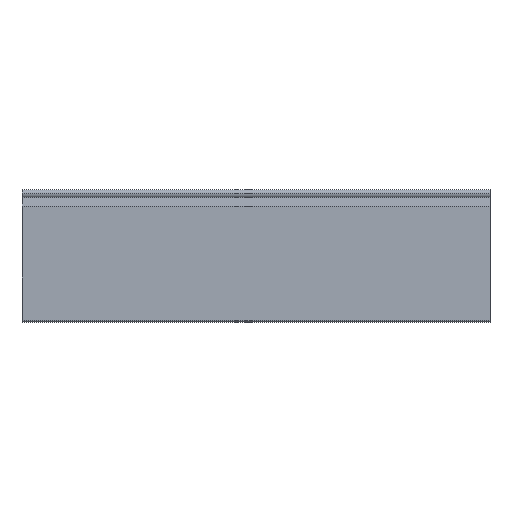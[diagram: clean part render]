
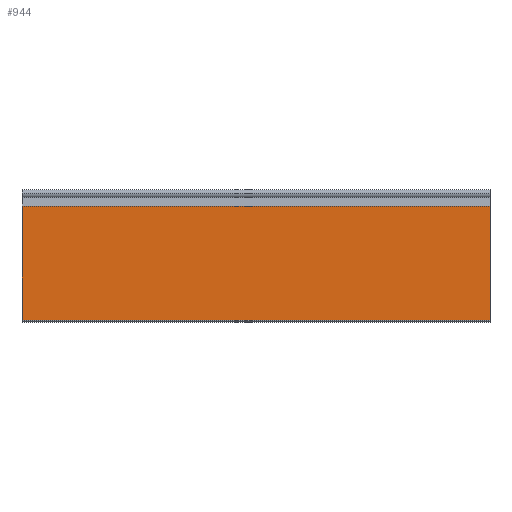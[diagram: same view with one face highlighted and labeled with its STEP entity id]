
A CAD part, top view. The second image highlights one B-rep face of the part: STEP entity #944.
In plain terms, the highlighted planar face has unit normal (0, 0, 1).
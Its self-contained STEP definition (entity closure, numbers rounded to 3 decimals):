
#27 = EDGE_CURVE ( 'NONE', #987, #977, #294, .T. ) ;
#85 = EDGE_CURVE ( 'NONE', #1022, #1044, #532, .T. ) ;
#90 = EDGE_CURVE ( 'NONE', #977, #1044, #554, .T. ) ;
#92 = EDGE_CURVE ( 'NONE', #987, #1022, #558, .T. ) ;
#294 = LINE ( 'NONE', #955, #1332 ) ;
#331 = PLANE ( 'NONE',  #1317 ) ;
#334 = CARTESIAN_POINT ( 'NONE',  ( 225., -12.164, 4.05 ) ) ;
#340 = DIRECTION ( 'NONE',  ( 0., 0., -1. ) ) ;
#341 = DIRECTION ( 'NONE',  ( 0., 1., 0. ) ) ;
#361 = CARTESIAN_POINT ( 'NONE',  ( 225., -121.663, 4.05 ) ) ;
#370 = CARTESIAN_POINT ( 'NONE',  ( 225., -12.164, 4.05 ) ) ;
#405 = CARTESIAN_POINT ( 'NONE',  ( -225., -12.164, 4.05 ) ) ;
#427 = CARTESIAN_POINT ( 'NONE',  ( -225., -121.663, 4.05 ) ) ;
#532 = LINE ( 'NONE', #742, #545 ) ;
#545 = VECTOR ( 'NONE', #746, 1000. ) ;
#554 = LINE ( 'NONE', #755, #555 ) ;
#555 = VECTOR ( 'NONE', #756, 1000. ) ;
#558 = LINE ( 'NONE', #759, #559 ) ;
#559 = VECTOR ( 'NONE', #760, 1000. ) ;
#742 = CARTESIAN_POINT ( 'NONE',  ( -225., -12.164, 4.05 ) ) ;
#746 = DIRECTION ( 'NONE',  ( 0., -1., 0. ) ) ;
#755 = CARTESIAN_POINT ( 'NONE',  ( 225., -121.663, 4.05 ) ) ;
#756 = DIRECTION ( 'NONE',  ( -1., 0., 0. ) ) ;
#759 = CARTESIAN_POINT ( 'NONE',  ( 225., -12.164, 4.05 ) ) ;
#760 = DIRECTION ( 'NONE',  ( -1., 0., 0. ) ) ;
#944 = ADVANCED_FACE ( 'NONE', ( #1140 ), #331, .F. ) ;
#955 = CARTESIAN_POINT ( 'NONE',  ( 225., -12.164, 4.05 ) ) ;
#958 = DIRECTION ( 'NONE',  ( 0., -1., 0. ) ) ;
#977 = VERTEX_POINT ( 'NONE', #361 ) ;
#987 = VERTEX_POINT ( 'NONE', #370 ) ;
#1022 = VERTEX_POINT ( 'NONE', #405 ) ;
#1044 = VERTEX_POINT ( 'NONE', #427 ) ;
#1140 = FACE_OUTER_BOUND ( 'NONE', #1229, .T. ) ;
#1186 = ORIENTED_EDGE ( 'NONE', *, *, #92, .T. ) ;
#1187 = ORIENTED_EDGE ( 'NONE', *, *, #27, .F. ) ;
#1188 = ORIENTED_EDGE ( 'NONE', *, *, #90, .F. ) ;
#1189 = ORIENTED_EDGE ( 'NONE', *, *, #85, .T. ) ;
#1229 = EDGE_LOOP ( 'NONE', ( #1189, #1188, #1187, #1186 ) ) ;
#1317 = AXIS2_PLACEMENT_3D ( 'NONE', #334, #340, #341 ) ;
#1332 = VECTOR ( 'NONE', #958, 1000. ) ;
